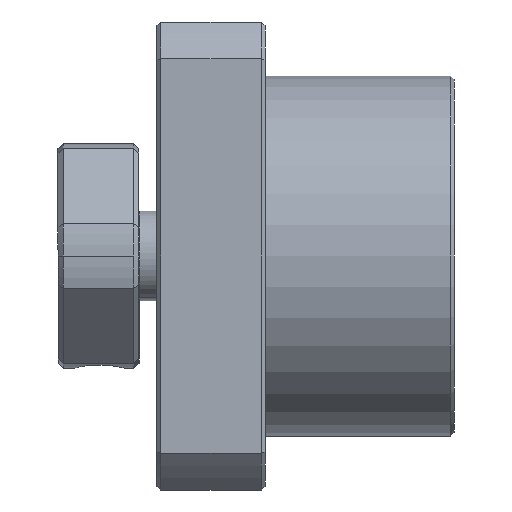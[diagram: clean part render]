
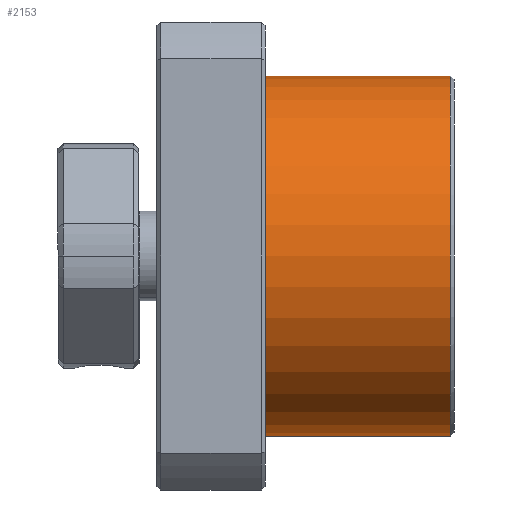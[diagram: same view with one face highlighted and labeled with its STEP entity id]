
A CAD part, front view. The second image highlights one B-rep face of the part: STEP entity #2153.
In plain terms, the highlighted cylindrical face has radius 10 mm (diameter 20 mm), a partial arc.
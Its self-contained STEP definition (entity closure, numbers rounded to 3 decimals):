
#14 = CARTESIAN_POINT ( 'NONE',  ( -94.469, 0., 0. ) ) ;
#58 = DIRECTION ( 'NONE',  ( 0., 0., 1. ) ) ;
#79 = VERTEX_POINT ( 'NONE', #2974 ) ;
#103 = CIRCLE ( 'NONE', #2736, 10. ) ;
#259 = VECTOR ( 'NONE', #3021, 1000. ) ;
#313 = VECTOR ( 'NONE', #3254, 1000. ) ;
#528 = CARTESIAN_POINT ( 'NONE',  ( 6., 0., 0. ) ) ;
#683 = ORIENTED_EDGE ( 'NONE', *, *, #3123, .F. ) ;
#887 = ORIENTED_EDGE ( 'NONE', *, *, #2134, .T. ) ;
#974 = DIRECTION ( 'NONE',  ( 0., 0., 1. ) ) ;
#1286 = EDGE_LOOP ( 'NONE', ( #2795, #5304, #887, #683 ) ) ;
#1389 = EDGE_CURVE ( 'NONE', #2727, #79, #3261, .T. ) ;
#1420 = FACE_OUTER_BOUND ( 'NONE', #1286, .T. ) ;
#1969 = VERTEX_POINT ( 'NONE', #4394 ) ;
#2134 = EDGE_CURVE ( 'NONE', #79, #3713, #3623, .T. ) ;
#2153 = ADVANCED_FACE ( 'NONE', ( #1420 ), #3466, .T. ) ;
#2660 = CARTESIAN_POINT ( 'NONE',  ( -94.469, 0., 10. ) ) ;
#2718 = DIRECTION ( 'NONE',  ( -1., 0., 0. ) ) ;
#2727 = VERTEX_POINT ( 'NONE', #3565 ) ;
#2736 = AXIS2_PLACEMENT_3D ( 'NONE', #528, #3609, #974 ) ;
#2795 = ORIENTED_EDGE ( 'NONE', *, *, #3360, .F. ) ;
#2826 = CARTESIAN_POINT ( 'NONE',  ( -94.469, 0., -10. ) ) ;
#2974 = CARTESIAN_POINT ( 'NONE',  ( 16.3, 0., 10. ) ) ;
#3021 = DIRECTION ( 'NONE',  ( -1., 0., 0. ) ) ;
#3057 = CARTESIAN_POINT ( 'NONE',  ( 6., 0., 10. ) ) ;
#3123 = EDGE_CURVE ( 'NONE', #1969, #3713, #103, .T. ) ;
#3254 = DIRECTION ( 'NONE',  ( -1., 0., 0. ) ) ;
#3261 = CIRCLE ( 'NONE', #4943, 10. ) ;
#3360 = EDGE_CURVE ( 'NONE', #2727, #1969, #5122, .T. ) ;
#3466 = CYLINDRICAL_SURFACE ( 'NONE', #5266, 10. ) ;
#3565 = CARTESIAN_POINT ( 'NONE',  ( 16.3, 0., -10. ) ) ;
#3609 = DIRECTION ( 'NONE',  ( -1., 0., 0. ) ) ;
#3623 = LINE ( 'NONE', #2660, #259 ) ;
#3713 = VERTEX_POINT ( 'NONE', #3057 ) ;
#4394 = CARTESIAN_POINT ( 'NONE',  ( 6., 0., -10. ) ) ;
#4943 = AXIS2_PLACEMENT_3D ( 'NONE', #5489, #5128, #5112 ) ;
#5112 = DIRECTION ( 'NONE',  ( 0., 0., 1. ) ) ;
#5122 = LINE ( 'NONE', #2826, #313 ) ;
#5128 = DIRECTION ( 'NONE',  ( -1., 0., 0. ) ) ;
#5266 = AXIS2_PLACEMENT_3D ( 'NONE', #14, #2718, #58 ) ;
#5304 = ORIENTED_EDGE ( 'NONE', *, *, #1389, .T. ) ;
#5489 = CARTESIAN_POINT ( 'NONE',  ( 16.3, 0., 0. ) ) ;
